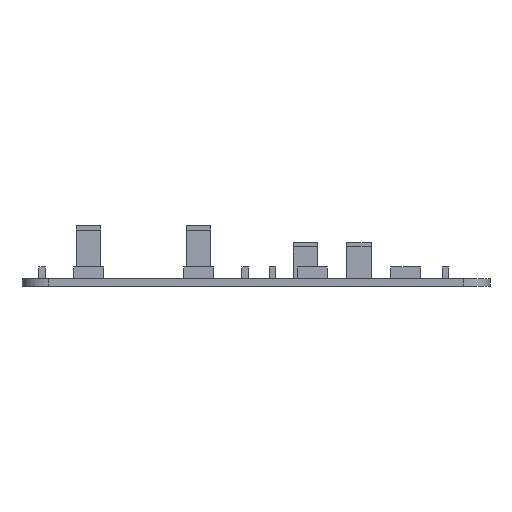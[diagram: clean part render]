
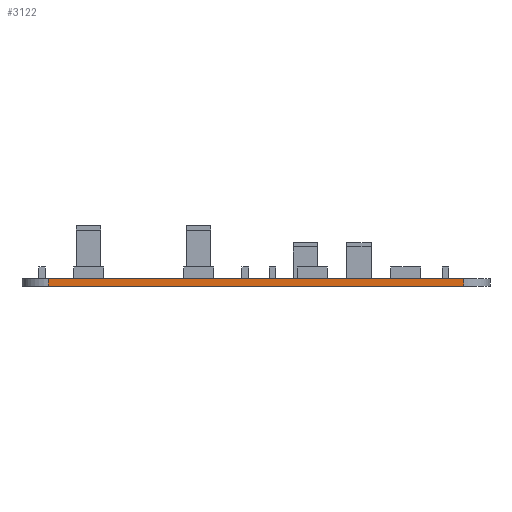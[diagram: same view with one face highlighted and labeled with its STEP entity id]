
A CAD part, front view. The second image highlights one B-rep face of the part: STEP entity #3122.
In plain terms, the highlighted planar face has unit normal (0, -1, 0).
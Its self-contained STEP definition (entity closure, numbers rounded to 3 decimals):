
#44 = PLANE('',#45);
#45 = AXIS2_PLACEMENT_3D('',#46,#47,#48);
#46 = CARTESIAN_POINT('',(-25.,-14.2,9.3));
#47 = DIRECTION('',(0.,0.,1.));
#48 = DIRECTION('',(1.,0.,0.));
#72 = CYLINDRICAL_SURFACE('',#73,2.8);
#73 = AXIS2_PLACEMENT_3D('',#74,#75,#76);
#74 = CARTESIAN_POINT('',(-22.2,-11.4,8.5));
#75 = DIRECTION('',(0.,0.,1.));
#76 = DIRECTION('',(-1.,-0.,0.));
#100 = PLANE('',#101);
#101 = AXIS2_PLACEMENT_3D('',#102,#103,#104);
#102 = CARTESIAN_POINT('',(-25.,-14.2,8.5));
#103 = DIRECTION('',(0.,0.,1.));
#104 = DIRECTION('',(1.,0.,0.));
#143 = VERTEX_POINT('',#144);
#144 = CARTESIAN_POINT('',(-22.2,-14.2,9.3));
#166 = EDGE_CURVE('',#143,#167,#169,.T.);
#167 = VERTEX_POINT('',#168);
#168 = CARTESIAN_POINT('',(22.2,-14.2,9.3));
#169 = SURFACE_CURVE('',#170,(#174,#181),.PCURVE_S1.);
#170 = LINE('',#171,#172);
#171 = CARTESIAN_POINT('',(-25.,-14.2,9.3));
#172 = VECTOR('',#173,1.);
#173 = DIRECTION('',(1.,0.,0.));
#174 = PCURVE('',#44,#175);
#175 = DEFINITIONAL_REPRESENTATION('',(#176),#180);
#176 = LINE('',#177,#178);
#177 = CARTESIAN_POINT('',(0.,0.));
#178 = VECTOR('',#179,1.);
#179 = DIRECTION('',(1.,0.));
#180 = ( GEOMETRIC_REPRESENTATION_CONTEXT(2) 
PARAMETRIC_REPRESENTATION_CONTEXT() REPRESENTATION_CONTEXT('2D SPACE',''
  ) );
#181 = PCURVE('',#182,#187);
#182 = PLANE('',#183);
#183 = AXIS2_PLACEMENT_3D('',#184,#185,#186);
#184 = CARTESIAN_POINT('',(-25.,-14.2,8.5));
#185 = DIRECTION('',(0.,1.,0.));
#186 = DIRECTION('',(0.,0.,1.));
#187 = DEFINITIONAL_REPRESENTATION('',(#188),#192);
#188 = LINE('',#189,#190);
#189 = CARTESIAN_POINT('',(0.8,0.));
#190 = VECTOR('',#191,1.);
#191 = DIRECTION('',(0.,1.));
#192 = ( GEOMETRIC_REPRESENTATION_CONTEXT(2) 
PARAMETRIC_REPRESENTATION_CONTEXT() REPRESENTATION_CONTEXT('2D SPACE',''
  ) );
#215 = CYLINDRICAL_SURFACE('',#216,2.8);
#216 = AXIS2_PLACEMENT_3D('',#217,#218,#219);
#217 = CARTESIAN_POINT('',(22.2,-11.4,8.5));
#218 = DIRECTION('',(0.,0.,1.));
#219 = DIRECTION('',(1.,0.,-0.));
#2602 = VERTEX_POINT('',#2603);
#2603 = CARTESIAN_POINT('',(-22.2,-14.2,8.5));
#2625 = EDGE_CURVE('',#2602,#2626,#2628,.T.);
#2626 = VERTEX_POINT('',#2627);
#2627 = CARTESIAN_POINT('',(22.2,-14.2,8.5));
#2628 = SURFACE_CURVE('',#2629,(#2633,#2640),.PCURVE_S1.);
#2629 = LINE('',#2630,#2631);
#2630 = CARTESIAN_POINT('',(-25.,-14.2,8.5));
#2631 = VECTOR('',#2632,1.);
#2632 = DIRECTION('',(1.,0.,0.));
#2633 = PCURVE('',#100,#2634);
#2634 = DEFINITIONAL_REPRESENTATION('',(#2635),#2639);
#2635 = LINE('',#2636,#2637);
#2636 = CARTESIAN_POINT('',(0.,0.));
#2637 = VECTOR('',#2638,1.);
#2638 = DIRECTION('',(1.,0.));
#2639 = ( GEOMETRIC_REPRESENTATION_CONTEXT(2) 
PARAMETRIC_REPRESENTATION_CONTEXT() REPRESENTATION_CONTEXT('2D SPACE',''
  ) );
#2640 = PCURVE('',#182,#2641);
#2641 = DEFINITIONAL_REPRESENTATION('',(#2642),#2646);
#2642 = LINE('',#2643,#2644);
#2643 = CARTESIAN_POINT('',(0.,0.));
#2644 = VECTOR('',#2645,1.);
#2645 = DIRECTION('',(0.,1.));
#2646 = ( GEOMETRIC_REPRESENTATION_CONTEXT(2) 
PARAMETRIC_REPRESENTATION_CONTEXT() REPRESENTATION_CONTEXT('2D SPACE',''
  ) );
#3100 = EDGE_CURVE('',#2602,#143,#3101,.T.);
#3101 = SURFACE_CURVE('',#3102,(#3106,#3113),.PCURVE_S1.);
#3102 = LINE('',#3103,#3104);
#3103 = CARTESIAN_POINT('',(-22.2,-14.2,8.5));
#3104 = VECTOR('',#3105,1.);
#3105 = DIRECTION('',(0.,0.,1.));
#3106 = PCURVE('',#72,#3107);
#3107 = DEFINITIONAL_REPRESENTATION('',(#3108),#3112);
#3108 = LINE('',#3109,#3110);
#3109 = CARTESIAN_POINT('',(1.571,0.));
#3110 = VECTOR('',#3111,1.);
#3111 = DIRECTION('',(0.,1.));
#3112 = ( GEOMETRIC_REPRESENTATION_CONTEXT(2) 
PARAMETRIC_REPRESENTATION_CONTEXT() REPRESENTATION_CONTEXT('2D SPACE',''
  ) );
#3113 = PCURVE('',#182,#3114);
#3114 = DEFINITIONAL_REPRESENTATION('',(#3115),#3119);
#3115 = LINE('',#3116,#3117);
#3116 = CARTESIAN_POINT('',(0.,2.8));
#3117 = VECTOR('',#3118,1.);
#3118 = DIRECTION('',(1.,0.));
#3119 = ( GEOMETRIC_REPRESENTATION_CONTEXT(2) 
PARAMETRIC_REPRESENTATION_CONTEXT() REPRESENTATION_CONTEXT('2D SPACE',''
  ) );
#3122 = ADVANCED_FACE('',(#3123),#182,.F.);
#3123 = FACE_BOUND('',#3124,.F.);
#3124 = EDGE_LOOP('',(#3125,#3126,#3127,#3128));
#3125 = ORIENTED_EDGE('',*,*,#2625,.F.);
#3126 = ORIENTED_EDGE('',*,*,#3100,.T.);
#3127 = ORIENTED_EDGE('',*,*,#166,.T.);
#3128 = ORIENTED_EDGE('',*,*,#3129,.F.);
#3129 = EDGE_CURVE('',#2626,#167,#3130,.T.);
#3130 = SURFACE_CURVE('',#3131,(#3135,#3142),.PCURVE_S1.);
#3131 = LINE('',#3132,#3133);
#3132 = CARTESIAN_POINT('',(22.2,-14.2,8.5));
#3133 = VECTOR('',#3134,1.);
#3134 = DIRECTION('',(0.,0.,1.));
#3135 = PCURVE('',#182,#3136);
#3136 = DEFINITIONAL_REPRESENTATION('',(#3137),#3141);
#3137 = LINE('',#3138,#3139);
#3138 = CARTESIAN_POINT('',(0.,47.2));
#3139 = VECTOR('',#3140,1.);
#3140 = DIRECTION('',(1.,0.));
#3141 = ( GEOMETRIC_REPRESENTATION_CONTEXT(2) 
PARAMETRIC_REPRESENTATION_CONTEXT() REPRESENTATION_CONTEXT('2D SPACE',''
  ) );
#3142 = PCURVE('',#215,#3143);
#3143 = DEFINITIONAL_REPRESENTATION('',(#3144),#3148);
#3144 = LINE('',#3145,#3146);
#3145 = CARTESIAN_POINT('',(-1.571,0.));
#3146 = VECTOR('',#3147,1.);
#3147 = DIRECTION('',(-0.,1.));
#3148 = ( GEOMETRIC_REPRESENTATION_CONTEXT(2) 
PARAMETRIC_REPRESENTATION_CONTEXT() REPRESENTATION_CONTEXT('2D SPACE',''
  ) );
